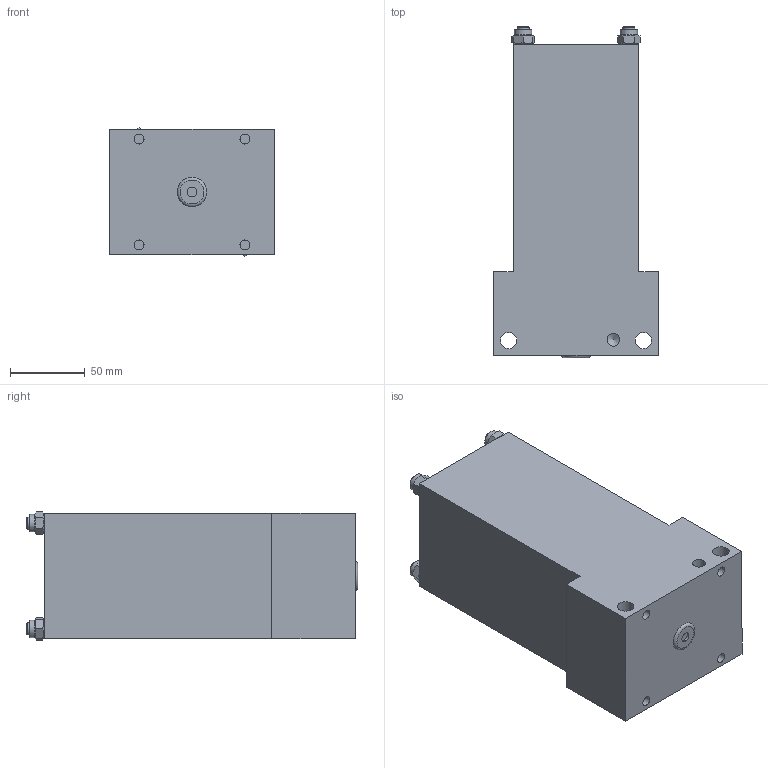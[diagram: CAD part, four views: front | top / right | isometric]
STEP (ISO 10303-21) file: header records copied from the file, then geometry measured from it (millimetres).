
FILE_DESCRIPTION((''),'2;1');
FILE_NAME('C:\VaultWork\Zeichnungen\Maßblätter\Multizylinder\M 75\M75-30\M01784-4-0 Maßblatt Multizylinder M75-4-30.stp','2013-06-17T11:20:37',('Sergeew'),(''),'Autodesk Inventor 2012','Autodesk Inventor 2012','');
FILE_SCHEMA(('AUTOMOTIVE_DESIGN { 1 0 10303 214 1 1 1 1 }'));
Length unit declared in the file: millimetre
Products named in the file (1): M01784-4-0 Maßblatt Multizylinder M75-4-30
Bounding box: 110 x 221.5 x 85.72 mm (x, y, z)
Volume: 1569733.7 mm3; surface area: 105691.4 mm2
Topology: 1 solids, 5 shells, 108 faces, 235 edges, 156 vertices
Faces by surface type: plane 61, cylinder 25, cone 21, torus 1
Full cylindrical faces by diameter (mm): 6.647 x5, 8 x8, 8.566 x2, 9 x4, 11 x2, 11.6 x4
Entity records: 2577 total; most frequent: CARTESIAN_POINT 501, DIRECTION 402, ORIENTED_EDGE 328, EDGE_LOOP 178, AXIS2_PLACEMENT_3D 177, EDGE_CURVE 164, VERTEX_POINT 132, FACE_OUTER_BOUND 108
